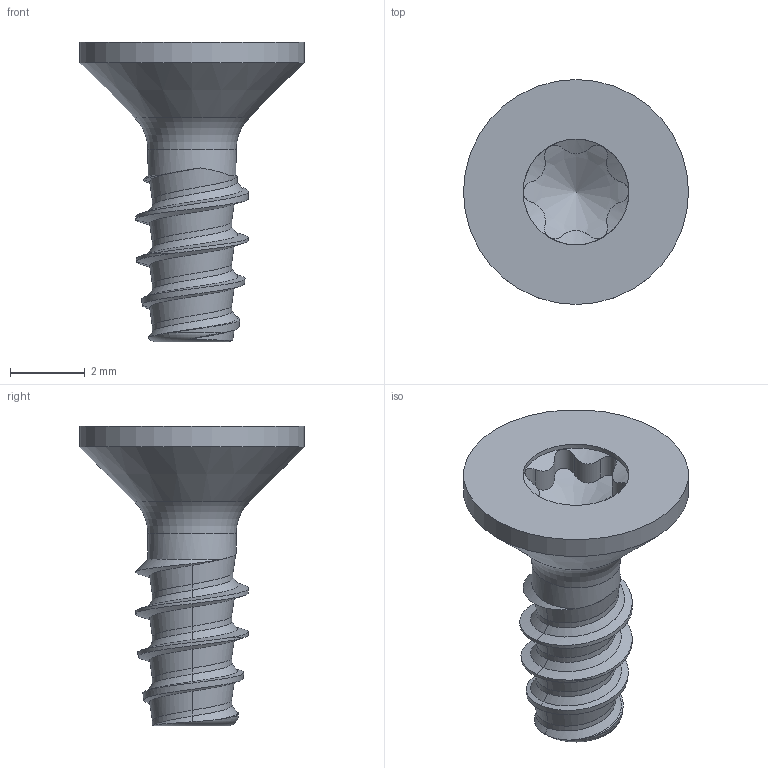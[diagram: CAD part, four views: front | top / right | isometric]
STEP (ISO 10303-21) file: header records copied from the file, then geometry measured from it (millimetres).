
FILE_DESCRIPTION(/* description */ (''),/* implementation_level */ '2;1');
FILE_NAME(/* name */ 'KN6041-STSplus30x8-T10.step',/* time_stamp */ '2017-10-12T09:24:03+02:00',/* author */ (''),/* organization */ (''),/* preprocessor_version */ 'ST-DEVELOPER v16',/* originating_system */ 'SIEMENS PLM Software NX 10.0',/* authorisation */ '');
FILE_SCHEMA (('AUTOMOTIVE_DESIGN { 1 0 10303 214 3 1 1 1 }'));
Length unit declared in the file: millimetre
Products named in the file (1): KN6041-STSplus30x8-T10
Bounding box: 6 x 6 x 8 mm (x, y, z)
Volume: 61.2 mm3; surface area: 138.2 mm2
Topology: 1 solids, 1 shells, 49 faces, 124 edges, 77 vertices
Faces by surface type: bspline 24, cylinder 16, cone 5, torus 2, plane 2
Full cylindrical faces by diameter (mm): 2.35 x1, 2.82 x1, 6 x1
Entity records: 3023 total; most frequent: CARTESIAN_POINT 2101, ORIENTED_EDGE 218, EDGE_CURVE 109, DIRECTION 105, VERTEX_POINT 71, B_SPLINE_CURVE_WITH_KNOTS 67, EDGE_LOOP 57, ADVANCED_FACE 49
